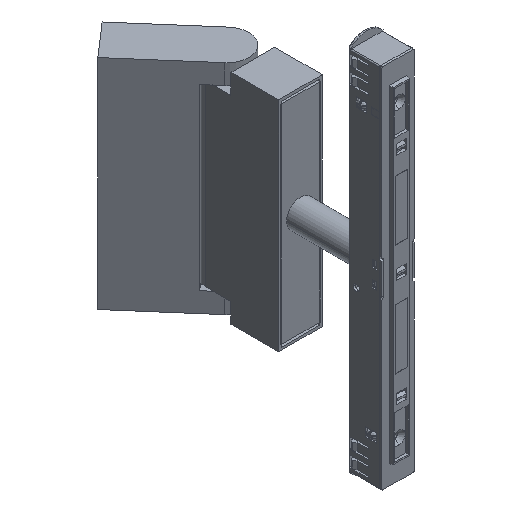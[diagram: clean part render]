
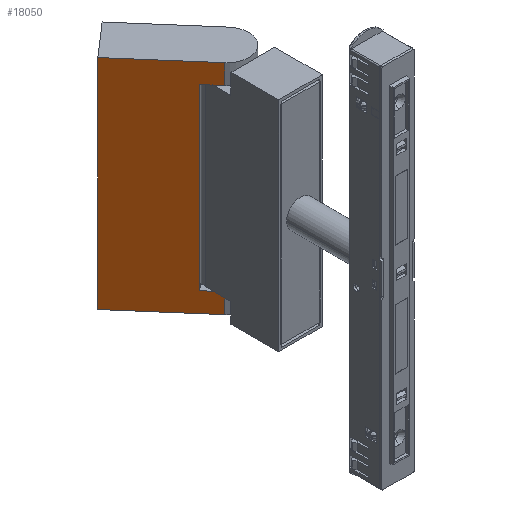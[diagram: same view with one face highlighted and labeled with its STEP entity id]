
A CAD part, isometric view. The second image highlights one B-rep face of the part: STEP entity #18050.
In plain terms, the highlighted planar face has unit normal (-0.755, -0.656, 0) as drawn and (1, 0, 0) by its records, which use the part's own axes.
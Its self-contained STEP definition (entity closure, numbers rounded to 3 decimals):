
#2332 = EDGE_LOOP ( 'NONE', ( #15700, #32640, #40067, #69577, #61814, #33344, #53860, #26297 ) ) ;
#3355 = LINE ( 'NONE', #26212, #25877 ) ;
#3996 = LINE ( 'NONE', #26852, #35324 ) ;
#4241 = FACE_OUTER_BOUND ( 'NONE', #2332, .T. ) ;
#4772 = LINE ( 'NONE', #27617, #26927 ) ;
#7160 = VERTEX_POINT ( 'NONE', #70248 ) ;
#7555 = EDGE_CURVE ( 'NONE', #9479, #52901, #4772, .T. ) ;
#8038 = DIRECTION ( 'NONE',  ( 0., -1., 0. ) ) ;
#8363 = LINE ( 'NONE', #31217, #56402 ) ;
#9479 = VERTEX_POINT ( 'NONE', #25997 ) ;
#10309 = VECTOR ( 'NONE', #61101, 1000. ) ;
#10720 = CARTESIAN_POINT ( 'NONE',  ( 11., 17.2, 45. ) ) ;
#13792 = CARTESIAN_POINT ( 'NONE',  ( 11., 17.2, -55. ) ) ;
#15063 = CARTESIAN_POINT ( 'NONE',  ( 11., -28.2, 55. ) ) ;
#15335 = LINE ( 'NONE', #38196, #10309 ) ;
#15700 = ORIENTED_EDGE ( 'NONE', *, *, #46681, .T. ) ;
#18050 = ADVANCED_FACE ( 'NONE', ( #4241 ), #27103, .T. ) ;
#18623 = VERTEX_POINT ( 'NONE', #46172 ) ;
#20746 = CARTESIAN_POINT ( 'NONE',  ( 11., 8.2, -45. ) ) ;
#21453 = DIRECTION ( 'NONE',  ( 0., 0., -1. ) ) ;
#21982 = LINE ( 'NONE', #44847, #37602 ) ;
#25081 = VERTEX_POINT ( 'NONE', #67184 ) ;
#25877 = VECTOR ( 'NONE', #49097, 1000. ) ;
#25997 = CARTESIAN_POINT ( 'NONE',  ( 11., 8.2, 45. ) ) ;
#26212 = CARTESIAN_POINT ( 'NONE',  ( 11., 0., -55. ) ) ;
#26297 = ORIENTED_EDGE ( 'NONE', *, *, #51302, .T. ) ;
#26852 = CARTESIAN_POINT ( 'NONE',  ( 11., 0., 55. ) ) ;
#26927 = VECTOR ( 'NONE', #50520, 1000. ) ;
#27103 = PLANE ( 'NONE',  #71167 ) ;
#27617 = CARTESIAN_POINT ( 'NONE',  ( 11., 28.2, 45. ) ) ;
#31217 = CARTESIAN_POINT ( 'NONE',  ( 11., 17.2, -55. ) ) ;
#32459 = VERTEX_POINT ( 'NONE', #15063 ) ;
#32640 = ORIENTED_EDGE ( 'NONE', *, *, #7555, .T. ) ;
#32762 = EDGE_CURVE ( 'NONE', #7160, #32459, #15335, .T. ) ;
#33344 = ORIENTED_EDGE ( 'NONE', *, *, #63509, .T. ) ;
#35324 = VECTOR ( 'NONE', #49750, 1000. ) ;
#36497 = LINE ( 'NONE', #59399, #70818 ) ;
#36663 = DIRECTION ( 'NONE',  ( 0., 0., -1. ) ) ;
#37602 = VECTOR ( 'NONE', #67732, 1000. ) ;
#38196 = CARTESIAN_POINT ( 'NONE',  ( 11., -28.2, -55. ) ) ;
#38931 = VECTOR ( 'NONE', #36663, 1000. ) ;
#40067 = ORIENTED_EDGE ( 'NONE', *, *, #59760, .F. ) ;
#44847 = CARTESIAN_POINT ( 'NONE',  ( 11., 8.2, 45. ) ) ;
#46172 = CARTESIAN_POINT ( 'NONE',  ( 11., 17.2, -45. ) ) ;
#46681 = EDGE_CURVE ( 'NONE', #66705, #9479, #21982, .T. ) ;
#49071 = CARTESIAN_POINT ( 'NONE',  ( 11., 17.2, -55. ) ) ;
#49097 = DIRECTION ( 'NONE',  ( 0., 1., 0. ) ) ;
#49750 = DIRECTION ( 'NONE',  ( 0., 1., 0. ) ) ;
#49984 = CARTESIAN_POINT ( 'NONE',  ( 11., -28.2, -55. ) ) ;
#50147 = EDGE_CURVE ( 'NONE', #18623, #67523, #8363, .T. ) ;
#50520 = DIRECTION ( 'NONE',  ( 0., 1., 0. ) ) ;
#51302 = EDGE_CURVE ( 'NONE', #18623, #66705, #36497, .T. ) ;
#52901 = VERTEX_POINT ( 'NONE', #10720 ) ;
#53860 = ORIENTED_EDGE ( 'NONE', *, *, #50147, .F. ) ;
#54120 = DIRECTION ( 'NONE',  ( 0., 0., -1. ) ) ;
#56402 = VECTOR ( 'NONE', #54120, 1000. ) ;
#57792 = EDGE_CURVE ( 'NONE', #32459, #25081, #3996, .T. ) ;
#59399 = CARTESIAN_POINT ( 'NONE',  ( 11., 8.2, -45. ) ) ;
#59760 = EDGE_CURVE ( 'NONE', #25081, #52901, #65161, .T. ) ;
#61101 = DIRECTION ( 'NONE',  ( 0., 0., 1. ) ) ;
#61814 = ORIENTED_EDGE ( 'NONE', *, *, #32762, .F. ) ;
#63509 = EDGE_CURVE ( 'NONE', #7160, #67523, #3355, .T. ) ;
#65161 = LINE ( 'NONE', #13792, #38931 ) ;
#66705 = VERTEX_POINT ( 'NONE', #20746 ) ;
#67184 = CARTESIAN_POINT ( 'NONE',  ( 11., 17.2, 55. ) ) ;
#67523 = VERTEX_POINT ( 'NONE', #49071 ) ;
#67732 = DIRECTION ( 'NONE',  ( 0., 0., 1. ) ) ;
#69577 = ORIENTED_EDGE ( 'NONE', *, *, #57792, .F. ) ;
#70248 = CARTESIAN_POINT ( 'NONE',  ( 11., -28.2, -55. ) ) ;
#70818 = VECTOR ( 'NONE', #8038, 1000. ) ;
#71167 = AXIS2_PLACEMENT_3D ( 'NONE', #49984, #72821, #21453 ) ;
#72821 = DIRECTION ( 'NONE',  ( 1., 0., 0. ) ) ;
